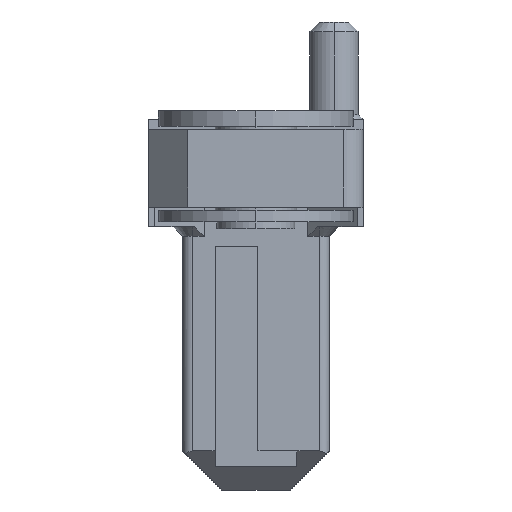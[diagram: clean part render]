
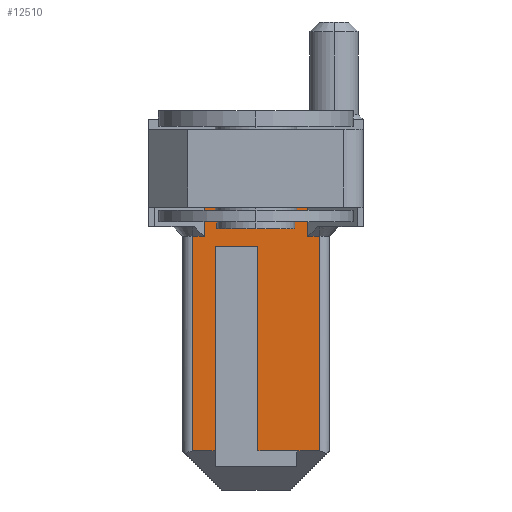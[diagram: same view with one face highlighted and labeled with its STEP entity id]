
A CAD part, left-side view. The second image highlights one B-rep face of the part: STEP entity #12510.
In plain terms, the highlighted planar face has unit normal (-1, 0, 0).
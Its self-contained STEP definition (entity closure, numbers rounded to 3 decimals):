
#10960=CARTESIAN_POINT('',(10.622,-1.836,-6.));
#10970=VERTEX_POINT('',#10960);
#11240=CARTESIAN_POINT('',(10.622,-1.836,-6.));
#11250=DIRECTION('',(0.,1.,0.));
#11260=VECTOR('',#11250,1.);
#11270=LINE('',#11240,#11260);
#11280=CARTESIAN_POINT('',(10.622,-1.236,-6.));
#11290=VERTEX_POINT('',#11280);
#11300=EDGE_CURVE('',#10970,#11290,#11270,.T.);
#11490=CARTESIAN_POINT('',(10.622,3.764,-5.5));
#11500=DIRECTION('',(1.,0.,0.));
#11510=DIRECTION('',(0.,1.,0.));
#11520=AXIS2_PLACEMENT_3D('',#11490,#11500,#11510);
#11530=PLANE('',#11520);
#11540=CARTESIAN_POINT('',(10.622,0.,-17.));
#11550=DIRECTION('',(0.,1.,0.));
#11560=VECTOR('',#11550,1.);
#11570=LINE('',#11540,#11560);
#11580=CARTESIAN_POINT('',(10.622,-1.836,-17.));
#11590=VERTEX_POINT('',#11580);
#11600=CARTESIAN_POINT('',(10.622,-0.686,-17.));
#11610=VERTEX_POINT('',#11600);
#11620=EDGE_CURVE('',#11590,#11610,#11570,.T.);
#11630=ORIENTED_EDGE('',*,*,#11620,.F.);
#11640=CARTESIAN_POINT('',(10.622,0.,-17.));
#11650=DIRECTION('',(0.,-1.,0.));
#11660=VECTOR('',#11650,1.);
#11670=LINE('',#11640,#11660);
#11680=CARTESIAN_POINT('',(10.622,1.314,-17.));
#11690=VERTEX_POINT('',#11680);
#11700=EDGE_CURVE('',#11690,#11610,#11670,.T.);
#11710=ORIENTED_EDGE('',*,*,#11700,.T.);
#11720=CARTESIAN_POINT('',(10.622,1.314,0.));
#11730=DIRECTION('',(0.,0.,-1.));
#11740=VECTOR('',#11730,1.);
#11750=LINE('',#11720,#11740);
#11760=CARTESIAN_POINT('',(10.622,1.314,-6.5));
#11770=VERTEX_POINT('',#11760);
#11780=EDGE_CURVE('',#11770,#11690,#11750,.T.);
#11790=ORIENTED_EDGE('',*,*,#11780,.T.);
#11800=CARTESIAN_POINT('',(10.622,3.514,-6.5));
#11810=DIRECTION('',(0.,-1.,0.));
#11820=VECTOR('',#11810,1.);
#11830=LINE('',#11800,#11820);
#11840=CARTESIAN_POINT('',(10.622,3.514,-6.5));
#11850=VERTEX_POINT('',#11840);
#11860=EDGE_CURVE('',#11850,#11770,#11830,.T.);
#11870=ORIENTED_EDGE('',*,*,#11860,.T.);
#11880=CARTESIAN_POINT('',(10.622,3.514,-6.5));
#11890=DIRECTION('',(0.,0.,-1.));
#11900=VECTOR('',#11890,1.);
#11910=LINE('',#11880,#11900);
#11920=CARTESIAN_POINT('',(10.622,3.514,-17.));
#11930=VERTEX_POINT('',#11920);
#11940=EDGE_CURVE('',#11850,#11930,#11910,.T.);
#11950=ORIENTED_EDGE('',*,*,#11940,.F.);
#11960=CARTESIAN_POINT('',(10.622,0.,-17.));
#11970=DIRECTION('',(0.,1.,0.));
#11980=VECTOR('',#11970,1.);
#11990=LINE('',#11960,#11980);
#12000=CARTESIAN_POINT('',(10.622,4.664,-17.));
#12010=VERTEX_POINT('',#12000);
#12020=EDGE_CURVE('',#11930,#12010,#11990,.T.);
#12030=ORIENTED_EDGE('',*,*,#12020,.F.);
#12040=CARTESIAN_POINT('',(10.622,4.664,0.));
#12050=DIRECTION('',(0.,0.,1.));
#12060=VECTOR('',#12050,1.);
#12070=LINE('',#12040,#12060);
#12080=CARTESIAN_POINT('',(10.622,4.664,-6.));
#12090=VERTEX_POINT('',#12080);
#12100=EDGE_CURVE('',#12010,#12090,#12070,.T.);
#12110=ORIENTED_EDGE('',*,*,#12100,.F.);
#12120=CARTESIAN_POINT('',(10.622,4.664,-6.));
#12130=DIRECTION('',(0.,-1.,0.));
#12140=VECTOR('',#12130,1.);
#12150=LINE('',#12120,#12140);
#12160=CARTESIAN_POINT('',(10.622,4.064,-6.));
#12170=VERTEX_POINT('',#12160);
#12180=EDGE_CURVE('',#12090,#12170,#12150,.T.);
#12190=ORIENTED_EDGE('',*,*,#12180,.F.);
#12200=CARTESIAN_POINT('',(10.622,4.064,-4.5));
#12210=DIRECTION('',(0.,0.,-1.));
#12220=VECTOR('',#12210,1.);
#12230=LINE('',#12200,#12220);
#12240=CARTESIAN_POINT('',(10.622,4.064,-4.5));
#12250=VERTEX_POINT('',#12240);
#12260=EDGE_CURVE('',#12250,#12170,#12230,.T.);
#12270=ORIENTED_EDGE('',*,*,#12260,.T.);
#12280=CARTESIAN_POINT('',(10.622,-1.236,-4.5));
#12290=DIRECTION('',(0.,1.,0.));
#12300=VECTOR('',#12290,1.);
#12310=LINE('',#12280,#12300);
#12320=CARTESIAN_POINT('',(10.622,-1.236,-4.5));
#12330=VERTEX_POINT('',#12320);
#12340=EDGE_CURVE('',#12330,#12250,#12310,.T.);
#12350=ORIENTED_EDGE('',*,*,#12340,.T.);
#12360=CARTESIAN_POINT('',(10.622,-1.236,-6.));
#12370=DIRECTION('',(0.,0.,1.));
#12380=VECTOR('',#12370,1.);
#12390=LINE('',#12360,#12380);
#12400=EDGE_CURVE('',#11290,#12330,#12390,.T.);
#12410=ORIENTED_EDGE('',*,*,#12400,.T.);
#12420=ORIENTED_EDGE('',*,*,#11300,.T.);
#12430=CARTESIAN_POINT('',(10.622,-1.836,0.));
#12440=DIRECTION('',(0.,0.,-1.));
#12450=VECTOR('',#12440,1.);
#12460=LINE('',#12430,#12450);
#12470=EDGE_CURVE('',#10970,#11590,#12460,.T.);
#12480=ORIENTED_EDGE('',*,*,#12470,.F.);
#12490=EDGE_LOOP('',(#12480,#12420,#12410,#12350,#12270,#12190,#12110,
#12030,#11950,#11870,#11790,#11710,#11630));
#12500=FACE_OUTER_BOUND('',#12490,.T.);
#12510=ADVANCED_FACE('',(#12500),#11530,.F.);
